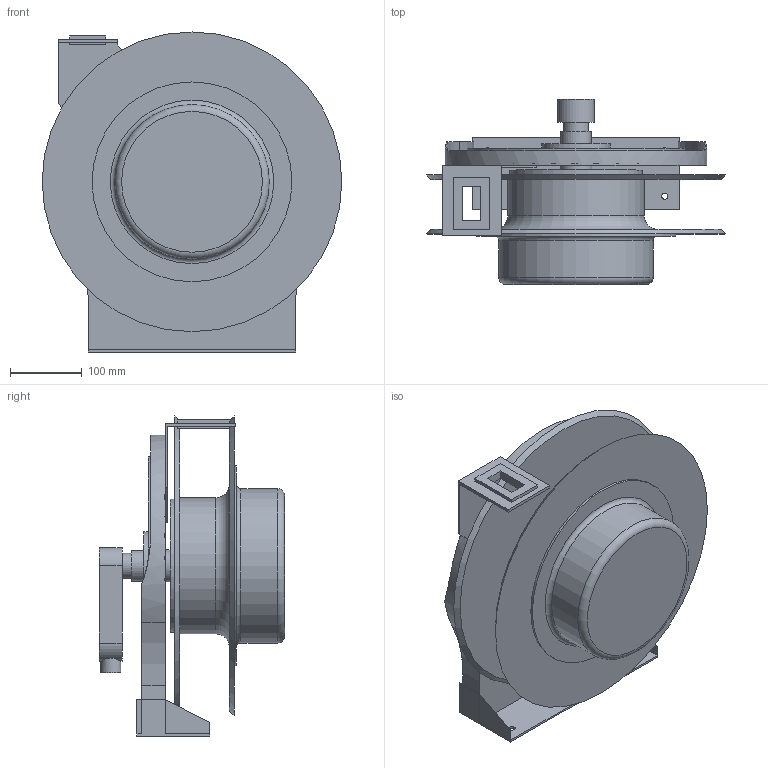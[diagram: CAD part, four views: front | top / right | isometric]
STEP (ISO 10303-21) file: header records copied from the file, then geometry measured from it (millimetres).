
FILE_DESCRIPTION( ( 'Unknown' ), '1' );
FILE_NAME( 'J:/NPD/RE 12893 3D WEB MODELS/L5000 SERIES/L 5700-X .stp', 'Unknown', ( 'Unknown' ), ( 'Unknown' ), 'PSStep 10.1', 'Unknown', ' ' );
FILE_SCHEMA( ( 'AUTOMOTIVE_DESIGN { 1 0 10303 214 1 1 1 1 }' ) );
Length unit declared in the file: millimetre
Products named in the file (1): 1
Bounding box: 419.1 x 258.76 x 447.54 mm (x, y, z)
Volume: 7095927.1 mm3; surface area: 1164948.3 mm2
Topology: 1 solids, 2 shells, 101 faces, 236 edges, 156 vertices
Faces by surface type: plane 67, cylinder 27, torus 5, cone 2
Full cylindrical faces by diameter (mm): 8.712 x4, 25.4 x1, 28.099 x1, 34.925 x1, 42.85 x1, 44.704 x1, 69.266 x1, 95.25 x1, 177.8 x1, 185.826 x1, 190.5 x1, 215.9 x1, 279.4 x1, 304.8 x1
Entity records: 3666 total; most frequent: CARTESIAN_POINT 605, DIRECTION 466, ORIENTED_EDGE 406, EDGE_CURVE 203, AXIS2_PLACEMENT_3D 166, EDGE_LOOP 152, VERTEX_POINT 147, LINE 134
